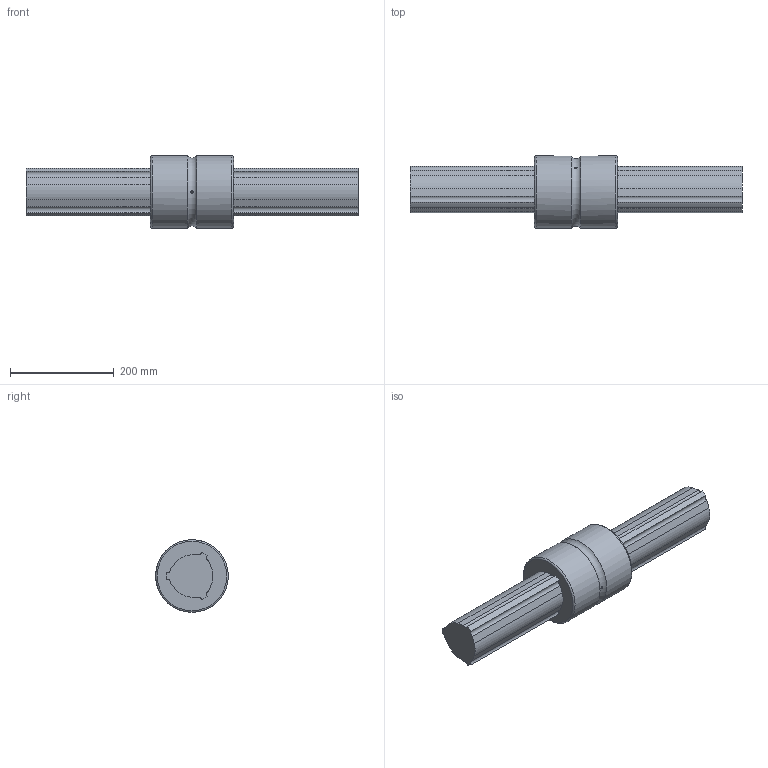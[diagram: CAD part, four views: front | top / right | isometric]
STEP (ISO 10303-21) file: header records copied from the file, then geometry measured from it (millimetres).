
FILE_DESCRIPTION(/* description */ ('STEP AP203'),/* implementation_level */ '2;1');
FILE_NAME(/* name */ 'LBS100+640L(1602400)',/* time_stamp */ '2024-05-23T11:58:48+02:00',/* author */ ('License CC BY-ND 4.0'),/* organization */ ('CADENAS'),/* preprocessor_version */ 'ST-DEVELOPER v19.3',/* originating_system */ 'PARTsolutions',/* authorisation */ ' ');
FILE_SCHEMA (('CONFIG_CONTROL_DESIGN'));
Length unit declared in the file: millimetre
Products named in the file (3): LBS100+640L(1602400); LBS100 Nut; LBS1001640 Spline Shaft
Assembly tree (2 placements, depth 2):
  LBS100+640L(1602400)
    LBS100 Nut
    LBS1001640 Spline Shaft
Bounding box: 640 x 140 x 140 mm (x, y, z)
Volume: 5150101.1 mm3; surface area: 337115.6 mm2
Topology: 3 solids, 3 shells, 57 faces, 148 edges, 99 vertices
Faces by surface type: cylinder 31, plane 22, torus 4
Full cylindrical faces by diameter (mm): 5 x3, 140 x2
Entity records: 1810 total; most frequent: CARTESIAN_POINT 355, DIRECTION 306, ORIENTED_EDGE 272, EDGE_CURVE 136, AXIS2_PLACEMENT_3D 118, VERTEX_POINT 94, LINE 70, VECTOR 70
